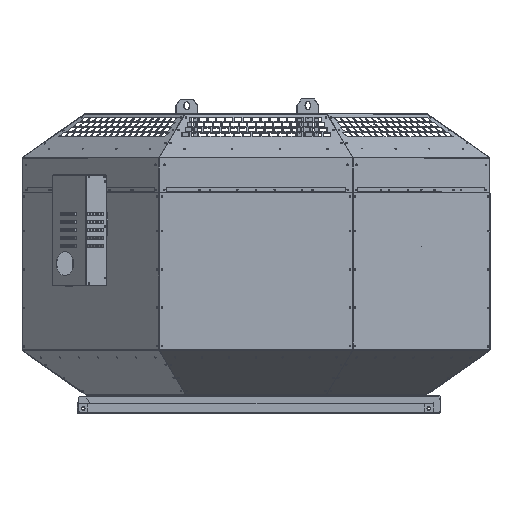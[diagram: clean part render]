
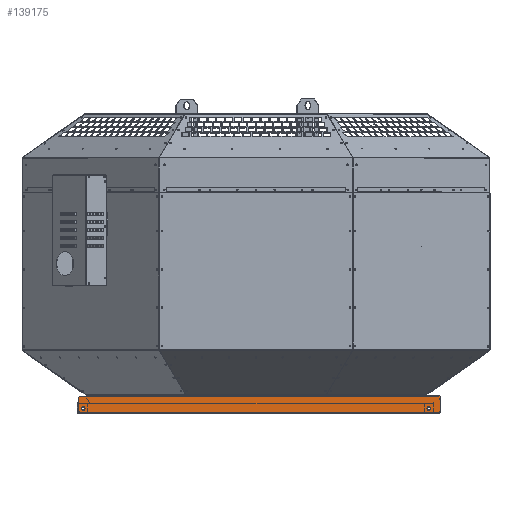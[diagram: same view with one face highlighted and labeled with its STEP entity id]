
A CAD part, top view. The second image highlights one B-rep face of the part: STEP entity #139175.
In plain terms, the highlighted planar face has unit normal (0, 0, 1).
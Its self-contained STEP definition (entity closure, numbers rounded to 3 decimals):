
#4 = DIRECTION ( 'NONE',  ( 0., 0., 1. ) ) ;
#251 = ORIENTED_EDGE ( 'NONE', *, *, #72916, .T. ) ;
#538 = DIRECTION ( 'NONE',  ( -1., 0., 0. ) ) ;
#1354 = DIRECTION ( 'NONE',  ( 0., 0., 1. ) ) ;
#2274 = ORIENTED_EDGE ( 'NONE', *, *, #54611, .F. ) ;
#3062 = FACE_BOUND ( 'NONE', #52286, .T. ) ;
#5735 = AXIS2_PLACEMENT_3D ( 'NONE', #70843, #1354, #82523 ) ;
#6111 = DIRECTION ( 'NONE',  ( 0., -1., 0. ) ) ;
#7911 = CIRCLE ( 'NONE', #37574, 3. ) ;
#8406 = CARTESIAN_POINT ( 'NONE',  ( 475.95, -22., 468.1 ) ) ;
#10070 = CARTESIAN_POINT ( 'NONE',  ( -458.05, -25., 468.1 ) ) ;
#10978 = CARTESIAN_POINT ( 'NONE',  ( -461.05, 16.6, 468.1 ) ) ;
#11413 = EDGE_CURVE ( 'NONE', #141164, #26175, #107131, .T. ) ;
#11472 = DIRECTION ( 'NONE',  ( 0., 0., 1. ) ) ;
#15071 = VERTEX_POINT ( 'NONE', #46009 ) ;
#17798 = ORIENTED_EDGE ( 'NONE', *, *, #129475, .T. ) ;
#19270 = AXIS2_PLACEMENT_3D ( 'NONE', #118853, #49228, #130570 ) ;
#20069 = DIRECTION ( 'NONE',  ( 0., -1., 0. ) ) ;
#21981 = DIRECTION ( 'NONE',  ( 0., 1., 0. ) ) ;
#22230 = ORIENTED_EDGE ( 'NONE', *, *, #107923, .T. ) ;
#23537 = EDGE_CURVE ( 'NONE', #33768, #63398, #55959, .T. ) ;
#26175 = VERTEX_POINT ( 'NONE', #145269 ) ;
#28961 = DIRECTION ( 'NONE',  ( 0., 0., 1. ) ) ;
#33449 = ORIENTED_EDGE ( 'NONE', *, *, #124264, .F. ) ;
#33672 = CARTESIAN_POINT ( 'NONE',  ( 478.95, -22., 468.1 ) ) ;
#33768 = VERTEX_POINT ( 'NONE', #48909 ) ;
#33819 = FACE_OUTER_BOUND ( 'NONE', #72516, .T. ) ;
#36152 = VERTEX_POINT ( 'NONE', #38192 ) ;
#37574 = AXIS2_PLACEMENT_3D ( 'NONE', #81012, #11472, #92682 ) ;
#38192 = CARTESIAN_POINT ( 'NONE',  ( -461.05, -22., 468.1 ) ) ;
#39269 = VERTEX_POINT ( 'NONE', #10070 ) ;
#39805 = CARTESIAN_POINT ( 'NONE',  ( 475.95, -25., 468.1 ) ) ;
#39891 = EDGE_LOOP ( 'NONE', ( #120452, #113725 ) ) ;
#40634 = DIRECTION ( 'NONE',  ( 0., -1., 0. ) ) ;
#41110 = FACE_BOUND ( 'NONE', #39891, .T. ) ;
#42127 = ORIENTED_EDGE ( 'NONE', *, *, #70019, .F. ) ;
#42503 = AXIS2_PLACEMENT_3D ( 'NONE', #110281, #28961, #40634 ) ;
#43721 = VERTEX_POINT ( 'NONE', #39805 ) ;
#46009 = CARTESIAN_POINT ( 'NONE',  ( -458.05, 16.6, 468.1 ) ) ;
#48909 = CARTESIAN_POINT ( 'NONE',  ( 475.55, 16.6, 468.1 ) ) ;
#49227 = CARTESIAN_POINT ( 'NONE',  ( -449.5, -9.7, 468.1 ) ) ;
#49228 = DIRECTION ( 'NONE',  ( 0., 0., 1. ) ) ;
#50301 = DIRECTION ( 'NONE',  ( 0., 0., 1. ) ) ;
#52286 = EDGE_LOOP ( 'NONE', ( #2274, #139895 ) ) ;
#52290 = VECTOR ( 'NONE', #62383, 1000. ) ;
#54611 = EDGE_CURVE ( 'NONE', #64577, #148760, #140810, .T. ) ;
#55641 = ORIENTED_EDGE ( 'NONE', *, *, #97947, .T. ) ;
#55717 = CARTESIAN_POINT ( 'NONE',  ( -461.05, 16.6, 468.1 ) ) ;
#55959 = LINE ( 'NONE', #97388, #52290 ) ;
#59414 = CIRCLE ( 'NONE', #5735, 4.5 ) ;
#59756 = VERTEX_POINT ( 'NONE', #76465 ) ;
#62383 = DIRECTION ( 'NONE',  ( 1., 0., 0. ) ) ;
#63398 = VERTEX_POINT ( 'NONE', #101788 ) ;
#64577 = VERTEX_POINT ( 'NONE', #64925 ) ;
#64925 = CARTESIAN_POINT ( 'NONE',  ( -449.5, -18.7, 468.1 ) ) ;
#65768 = VECTOR ( 'NONE', #114244, 1000. ) ;
#69481 = PLANE ( 'NONE',  #140712 ) ;
#69878 = LINE ( 'NONE', #91538, #84427 ) ;
#70019 = EDGE_CURVE ( 'NONE', #63398, #139752, #123945, .T. ) ;
#70843 = CARTESIAN_POINT ( 'NONE',  ( 449.5, -14.2, 468.1 ) ) ;
#71614 = ORIENTED_EDGE ( 'NONE', *, *, #23537, .F. ) ;
#72516 = EDGE_LOOP ( 'NONE', ( #33449, #17798, #136136, #22230, #85245, #55641, #42127, #71614, #251 ) ) ;
#72916 = EDGE_CURVE ( 'NONE', #33768, #112657, #121296, .T. ) ;
#75291 = LINE ( 'NONE', #10978, #129873 ) ;
#75465 = AXIS2_PLACEMENT_3D ( 'NONE', #119915, #50301, #131638 ) ;
#75578 = DIRECTION ( 'NONE',  ( 0., 0., 1. ) ) ;
#76465 = CARTESIAN_POINT ( 'NONE',  ( -461.05, 13.6, 468.1 ) ) ;
#81012 = CARTESIAN_POINT ( 'NONE',  ( -458.05, 13.6, 468.1 ) ) ;
#81140 = DIRECTION ( 'NONE',  ( 0., -1., 0. ) ) ;
#82523 = DIRECTION ( 'NONE',  ( 0., -1., 0. ) ) ;
#84427 = VECTOR ( 'NONE', #21981, 1000. ) ;
#85245 = ORIENTED_EDGE ( 'NONE', *, *, #106311, .F. ) ;
#87974 = EDGE_CURVE ( 'NONE', #36152, #59756, #69878, .T. ) ;
#89601 = DIRECTION ( 'NONE',  ( 0., 0., 1. ) ) ;
#90356 = VECTOR ( 'NONE', #90735, 1000. ) ;
#90735 = DIRECTION ( 'NONE',  ( -1., 0., 0. ) ) ;
#90875 = CARTESIAN_POINT ( 'NONE',  ( 478.95, 16.6, 468.1 ) ) ;
#91538 = CARTESIAN_POINT ( 'NONE',  ( -461.05, 18.5, 468.1 ) ) ;
#91826 = EDGE_CURVE ( 'NONE', #148760, #64577, #136218, .T. ) ;
#91853 = CIRCLE ( 'NONE', #75465, 3. ) ;
#92682 = DIRECTION ( 'NONE',  ( 0., -1., 0. ) ) ;
#93093 = EDGE_CURVE ( 'NONE', #26175, #141164, #59414, .T. ) ;
#97388 = CARTESIAN_POINT ( 'NONE',  ( 461.05, 16.6, 468.1 ) ) ;
#97947 = EDGE_CURVE ( 'NONE', #43721, #139752, #108732, .T. ) ;
#101788 = CARTESIAN_POINT ( 'NONE',  ( 478.95, 16.6, 468.1 ) ) ;
#103400 = AXIS2_PLACEMENT_3D ( 'NONE', #145178, #75578, #6111 ) ;
#103863 = DIRECTION ( 'NONE',  ( 1., 0., 0. ) ) ;
#106311 = EDGE_CURVE ( 'NONE', #43721, #39269, #150554, .T. ) ;
#107131 = CIRCLE ( 'NONE', #42503, 4.5 ) ;
#107923 = EDGE_CURVE ( 'NONE', #36152, #39269, #91853, .T. ) ;
#108732 = CIRCLE ( 'NONE', #114926, 3. ) ;
#110281 = CARTESIAN_POINT ( 'NONE',  ( 449.5, -14.2, 468.1 ) ) ;
#112657 = VERTEX_POINT ( 'NONE', #134526 ) ;
#113725 = ORIENTED_EDGE ( 'NONE', *, *, #11413, .F. ) ;
#114244 = DIRECTION ( 'NONE',  ( 0., -1., 0. ) ) ;
#114926 = AXIS2_PLACEMENT_3D ( 'NONE', #8406, #89601, #20069 ) ;
#116149 = CARTESIAN_POINT ( 'NONE',  ( 449.5, -9.7, 468.1 ) ) ;
#118853 = CARTESIAN_POINT ( 'NONE',  ( -449.5, -14.2, 468.1 ) ) ;
#119915 = CARTESIAN_POINT ( 'NONE',  ( -458.05, -22., 468.1 ) ) ;
#120452 = ORIENTED_EDGE ( 'NONE', *, *, #93093, .F. ) ;
#121296 = LINE ( 'NONE', #55717, #90356 ) ;
#123945 = LINE ( 'NONE', #90875, #65768 ) ;
#124264 = EDGE_CURVE ( 'NONE', #15071, #112657, #75291, .T. ) ;
#128456 = CARTESIAN_POINT ( 'NONE',  ( -461.05, -25., 468.1 ) ) ;
#129475 = EDGE_CURVE ( 'NONE', #15071, #59756, #7911, .T. ) ;
#129873 = VECTOR ( 'NONE', #103863, 1000. ) ;
#130570 = DIRECTION ( 'NONE',  ( 0., -1., 0. ) ) ;
#131638 = DIRECTION ( 'NONE',  ( 0., -1., 0. ) ) ;
#134526 = CARTESIAN_POINT ( 'NONE',  ( -439.55, 16.6, 468.1 ) ) ;
#136136 = ORIENTED_EDGE ( 'NONE', *, *, #87974, .F. ) ;
#136218 = CIRCLE ( 'NONE', #19270, 4.5 ) ;
#139051 = CARTESIAN_POINT ( 'NONE',  ( -461.05, 18.5, 468.1 ) ) ;
#139175 = ADVANCED_FACE ( 'NONE', ( #41110, #3062, #33819 ), #69481, .T. ) ;
#139752 = VERTEX_POINT ( 'NONE', #33672 ) ;
#139895 = ORIENTED_EDGE ( 'NONE', *, *, #91826, .F. ) ;
#140712 = AXIS2_PLACEMENT_3D ( 'NONE', #139051, #4, #81140 ) ;
#140810 = CIRCLE ( 'NONE', #103400, 4.5 ) ;
#141164 = VERTEX_POINT ( 'NONE', #116149 ) ;
#145178 = CARTESIAN_POINT ( 'NONE',  ( -449.5, -14.2, 468.1 ) ) ;
#145269 = CARTESIAN_POINT ( 'NONE',  ( 449.5, -18.7, 468.1 ) ) ;
#146910 = VECTOR ( 'NONE', #538, 1000. ) ;
#148760 = VERTEX_POINT ( 'NONE', #49227 ) ;
#150554 = LINE ( 'NONE', #128456, #146910 ) ;
